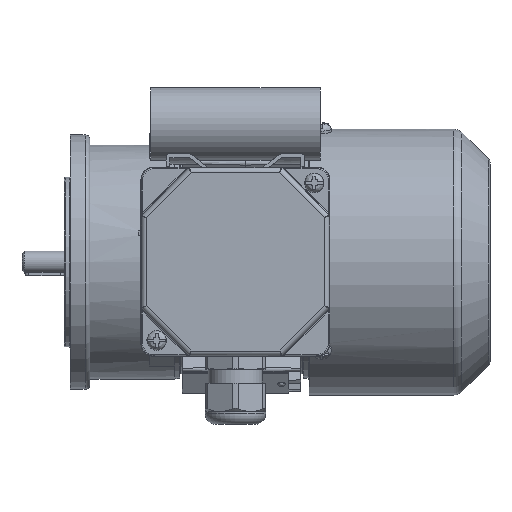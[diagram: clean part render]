
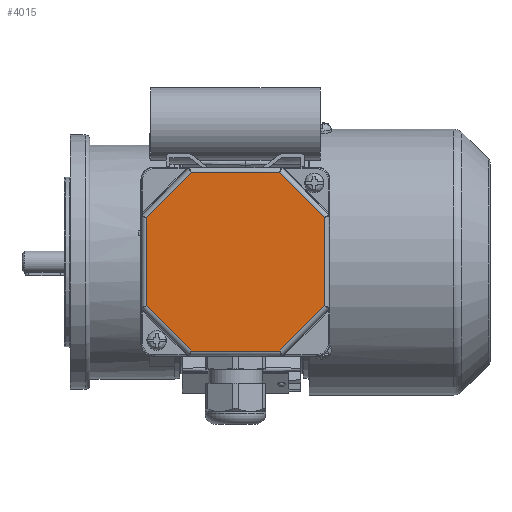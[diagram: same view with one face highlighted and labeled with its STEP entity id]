
A CAD part, top view. The second image highlights one B-rep face of the part: STEP entity #4015.
In plain terms, the highlighted planar face has unit normal (0, 0, 1).
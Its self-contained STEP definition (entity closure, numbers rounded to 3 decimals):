
#4015 = ADVANCED_FACE( '', ( #8429 ), #8430, .T. );
#8429 = FACE_OUTER_BOUND( '', #17222, .T. );
#8430 = PLANE( '', #17223 );
#17222 = EDGE_LOOP( '', ( #31060, #31061, #31062, #31063, #31064, #31065, #31066, #31067 ) );
#17223 = AXIS2_PLACEMENT_3D( '', #31068, #31069, #31070 );
#31060 = ORIENTED_EDGE( '', *, *, #39560, .T. );
#31061 = ORIENTED_EDGE( '', *, *, #40894, .T. );
#31062 = ORIENTED_EDGE( '', *, *, #39380, .T. );
#31063 = ORIENTED_EDGE( '', *, *, #40895, .T. );
#31064 = ORIENTED_EDGE( '', *, *, #40896, .T. );
#31065 = ORIENTED_EDGE( '', *, *, #40897, .T. );
#31066 = ORIENTED_EDGE( '', *, *, #39400, .T. );
#31067 = ORIENTED_EDGE( '', *, *, #39216, .T. );
#31068 = CARTESIAN_POINT( '', ( -39., 39., 12. ) );
#31069 = DIRECTION( '', ( 0., 0., 1. ) );
#31070 = DIRECTION( '', ( 1., 0., 0. ) );
#39216 = EDGE_CURVE( '', #47222, #47220, #47223, .T. );
#39380 = EDGE_CURVE( '', #47466, #44862, #47467, .F. );
#39400 = EDGE_CURVE( '', #47495, #47222, #47496, .F. );
#39560 = EDGE_CURVE( '', #47220, #45538, #47723, .F. );
#40894 = EDGE_CURVE( '', #45538, #47466, #49544, .T. );
#40895 = EDGE_CURVE( '', #44862, #49545, #49546, .T. );
#40896 = EDGE_CURVE( '', #49545, #49304, #49547, .F. );
#40897 = EDGE_CURVE( '', #49304, #47495, #49548, .T. );
#44862 = VERTEX_POINT( '', #55598 );
#45538 = VERTEX_POINT( '', #56934 );
#47220 = VERTEX_POINT( '', #59892 );
#47222 = VERTEX_POINT( '', #59894 );
#47223 = LINE( '', #59895, #59896 );
#47466 = VERTEX_POINT( '', #60385 );
#47467 = LINE( '', #60386, #60387 );
#47495 = VERTEX_POINT( '', #60420 );
#47496 = LINE( '', #60421, #60422 );
#47723 = LINE( '', #60938, #60939 );
#49304 = VERTEX_POINT( '', #64254 );
#49544 = LINE( '', #64739, #64740 );
#49545 = VERTEX_POINT( '', #64741 );
#49546 = LINE( '', #64742, #64743 );
#49547 = LINE( '', #64744, #64745 );
#49548 = LINE( '', #64746, #64747 );
#55598 = CARTESIAN_POINT( '', ( -18.255, 36.825, 12. ) );
#56934 = CARTESIAN_POINT( '', ( 36.825, 18.255, 12. ) );
#59892 = CARTESIAN_POINT( '', ( 36.825, -18.255, 12. ) );
#59894 = CARTESIAN_POINT( '', ( 18.255, -36.825, 12. ) );
#59895 = CARTESIAN_POINT( '', ( 37.401, -17.679, 12. ) );
#59896 = VECTOR( '', #71527, 1000. );
#60385 = CARTESIAN_POINT( '', ( 18.255, 36.825, 12. ) );
#60386 = CARTESIAN_POINT( '', ( -19.069, 36.825, 12. ) );
#60387 = VECTOR( '', #71715, 1000. );
#60420 = CARTESIAN_POINT( '', ( -18.255, -36.825, 12. ) );
#60421 = CARTESIAN_POINT( '', ( 19.069, -36.825, 12. ) );
#60422 = VECTOR( '', #71745, 1000. );
#60938 = CARTESIAN_POINT( '', ( 36.825, 19.069, 12. ) );
#60939 = VECTOR( '', #71898, 1000. );
#64254 = CARTESIAN_POINT( '', ( -36.825, -18.255, 12. ) );
#64739 = CARTESIAN_POINT( '', ( 17.679, 37.401, 12. ) );
#64740 = VECTOR( '', #73545, 1000. );
#64741 = CARTESIAN_POINT( '', ( -36.825, 18.255, 12. ) );
#64742 = CARTESIAN_POINT( '', ( -37.401, 17.679, 12. ) );
#64743 = VECTOR( '', #73546, 1000. );
#64744 = CARTESIAN_POINT( '', ( -36.825, -19.069, 12. ) );
#64745 = VECTOR( '', #73547, 1000. );
#64746 = CARTESIAN_POINT( '', ( -17.679, -37.401, 12. ) );
#64747 = VECTOR( '', #73548, 1000. );
#71527 = DIRECTION( '', ( 0.707, 0.707, 0. ) );
#71715 = DIRECTION( '', ( 1., 0., 0. ) );
#71745 = DIRECTION( '', ( -1., 0., 0. ) );
#71898 = DIRECTION( '', ( 0., -1., 0. ) );
#73545 = DIRECTION( '', ( -0.707, 0.707, 0. ) );
#73546 = DIRECTION( '', ( -0.707, -0.707, 0. ) );
#73547 = DIRECTION( '', ( 0., 1., 0. ) );
#73548 = DIRECTION( '', ( 0.707, -0.707, 0. ) );
